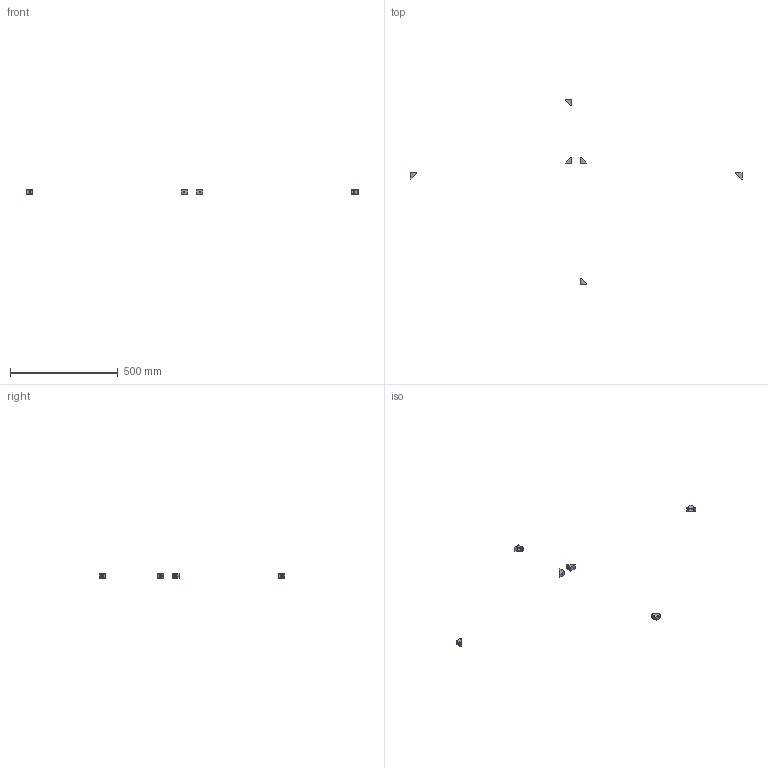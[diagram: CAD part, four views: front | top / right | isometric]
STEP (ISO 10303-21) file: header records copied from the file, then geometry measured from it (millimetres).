
FILE_DESCRIPTION(/* description */ (''),/* implementation_level */ '2;1');
FILE_NAME(/* name */ 'FRE4F8~1',/* time_stamp */ '2014-02-14T19:31:52+01:00',/* author */ (''),/* organization */ (''),/* preprocessor_version */ 'ST-DEVELOPER v14',/* originating_system */ '',/* authorisation */ '');
FILE_SCHEMA (('AUTOMOTIVE_DESIGN'));
Length unit declared in the file: millimetre
Products named in the file (2): Document; angle bracket, single
Assembly tree (2 placements, depth 2):
  Document
    angle bracket, single  x2
Bounding box: 1540 x 860 x 20 mm (x, y, z)
Volume: 38131.4 mm3; surface area: 25315.7 mm2
Topology: 6 solids, 6 shells, 108 faces, 264 edges, 168 vertices
Faces by surface type: plane 72, bspline 36
Entity records: 6362 total; most frequent: CARTESIAN_POINT 3280, B_SPLINE_CURVE_WITH_KNOTS 570, ORIENTED_EDGE 440, PCURVE 440, DEFINITIONAL_REPRESENTATION 440, SURFACE_CURVE 220, EDGE_CURVE 220, VERTEX_POINT 140
